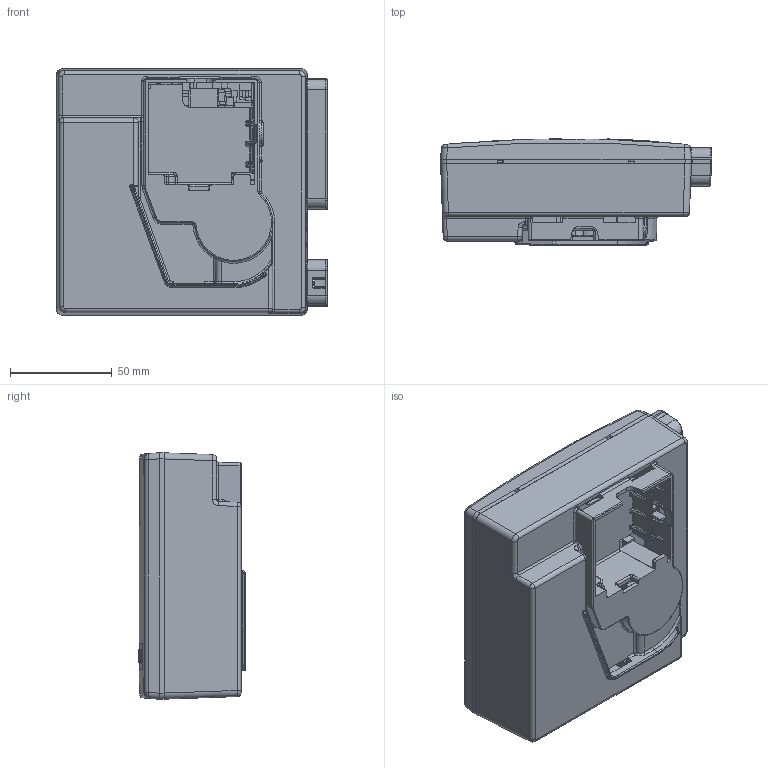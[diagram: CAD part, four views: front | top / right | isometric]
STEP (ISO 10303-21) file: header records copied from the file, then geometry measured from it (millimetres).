
FILE_DESCRIPTION((''),'2;1');
FILE_NAME('105B7105_ASM','2023-10-10T14:26:05',('DEHC5645'),(''),'CREO PARAMETRIC BY PTC INC, 2022162','CREO PARAMETRIC BY PTC INC, 2022162','');
FILE_SCHEMA(('CONFIG_CONTROL_DESIGN'));
Products named in the file (6): 105B4069; 105B4335-01_SW0002; 105B4068; 640N2094; 105A0203; 105B7105_ASM
Assembly tree (8 placements, depth 2):
  105B7105_ASM
    105B4069
    105B4335-01_SW0002
    105B4068
    640N2094  x4
    105A0203
Bounding box: 133 x 52.1 x 121 mm (x, y, z)
Volume: 233322.7 mm3; surface area: 176720.1 mm2
Topology: 8 solids, 8 shells, 6065 faces, 15532 edges, 9765 vertices
Faces by surface type: plane 3184, cylinder 1055, extrusion 655, bspline 647, cone 339, sphere 102, torus 83
Entity records: 206977 total; most frequent: CARTESIAN_POINT 76185, ORIENTED_EDGE 29320, DIRECTION 22760, EDGE_CURVE 14660, VECTOR 10330, LINE 9675, VERTEX_POINT 9264, AXIS2_PLACEMENT_3D 6215
